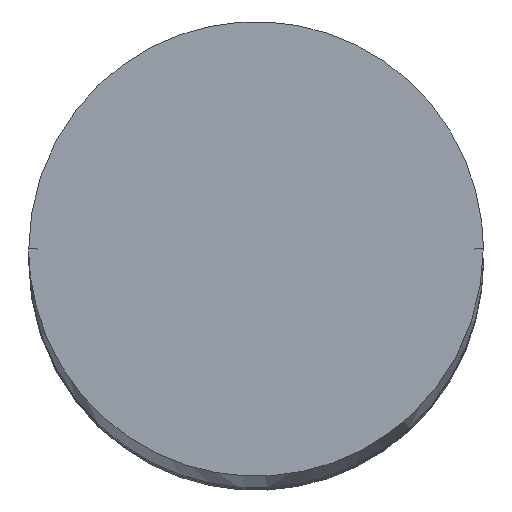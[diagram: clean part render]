
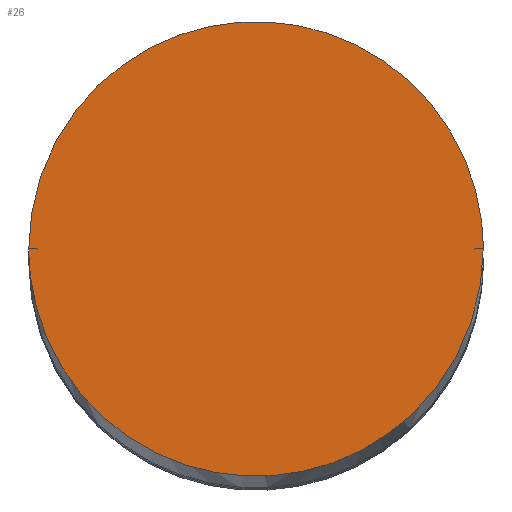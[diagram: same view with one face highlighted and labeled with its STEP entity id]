
A CAD part, top view. The second image highlights one B-rep face of the part: STEP entity #26.
In plain terms, the highlighted planar face has unit normal (0, 0, 1).
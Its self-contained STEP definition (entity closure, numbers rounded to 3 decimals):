
#26=ADVANCED_FACE('',(#42),#216,.T.);
#42=FACE_OUTER_BOUND('',#61,.T.);
#61=EDGE_LOOP('',(#100,#101));
#100=ORIENTED_EDGE('',*,*,#155,.F.);
#101=ORIENTED_EDGE('',*,*,#137,.F.);
#137=EDGE_CURVE('',#196,#207,#163,.T.);
#155=EDGE_CURVE('',#207,#196,#181,.T.);
#163=(
BOUNDED_CURVE()
B_SPLINE_CURVE(2,(#467,#468,#469,#470,#471),.UNSPECIFIED.,.F.,.F.)
B_SPLINE_CURVE_WITH_KNOTS((3,2,3),(-565.487,-424.115,
-282.743),.UNSPECIFIED.)
CURVE()
GEOMETRIC_REPRESENTATION_ITEM()
RATIONAL_B_SPLINE_CURVE((1.,0.707,1.,0.707,1.))
REPRESENTATION_ITEM('')
);
#181=(
BOUNDED_CURVE()
B_SPLINE_CURVE(2,(#562,#563,#564,#565,#566),.UNSPECIFIED.,.F.,.F.)
B_SPLINE_CURVE_WITH_KNOTS((3,2,3),(-282.743,-141.372,
0.),.UNSPECIFIED.)
CURVE()
GEOMETRIC_REPRESENTATION_ITEM()
RATIONAL_B_SPLINE_CURVE((1.,0.707,1.,0.707,1.))
REPRESENTATION_ITEM('')
);
#196=VERTEX_POINT('',#430);
#207=VERTEX_POINT('',#441);
#216=PLANE('',#318);
#318=AXIS2_PLACEMENT_3D('',#380,#329,$);
#329=DIRECTION('',(0.,0.,1.));
#380=CARTESIAN_POINT('',(639.114,58.49,3200.));
#430=CARTESIAN_POINT('',(459.114,-31.51,3200.));
#441=CARTESIAN_POINT('',(639.114,-31.51,3200.));
#467=CARTESIAN_POINT('',(459.114,-31.51,3200.));
#468=CARTESIAN_POINT('',(459.114,58.49,3200.));
#469=CARTESIAN_POINT('',(549.114,58.49,3200.));
#470=CARTESIAN_POINT('',(639.114,58.49,3200.));
#471=CARTESIAN_POINT('',(639.114,-31.51,3200.));
#562=CARTESIAN_POINT('',(639.114,-31.51,3200.));
#563=CARTESIAN_POINT('',(639.114,-121.51,3200.));
#564=CARTESIAN_POINT('',(549.114,-121.51,3200.));
#565=CARTESIAN_POINT('',(459.114,-121.51,3200.));
#566=CARTESIAN_POINT('',(459.114,-31.51,3200.));
